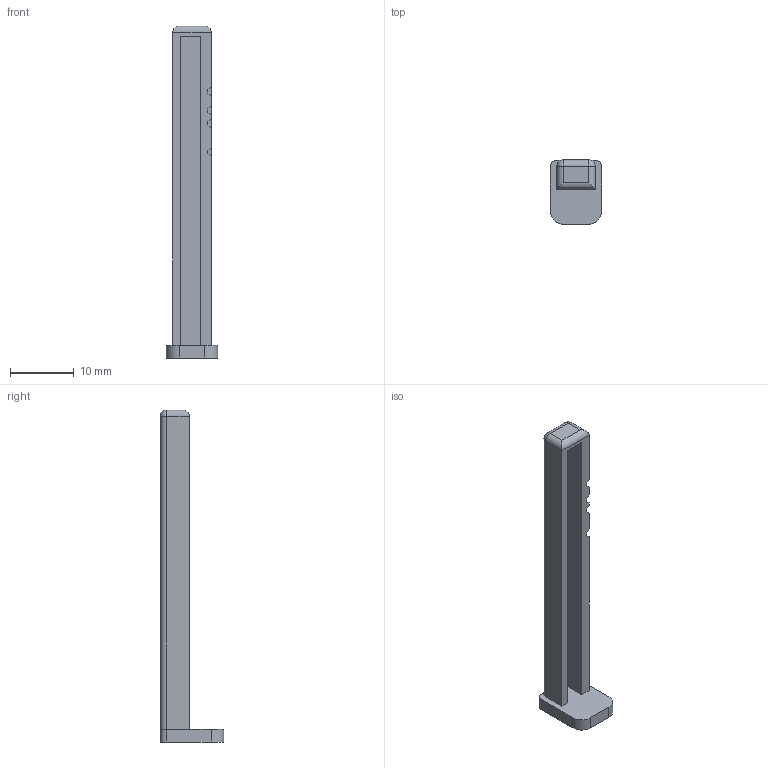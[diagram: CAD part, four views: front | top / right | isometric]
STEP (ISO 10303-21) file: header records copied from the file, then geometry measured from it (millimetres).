
FILE_DESCRIPTION(/* description */ (''),/* implementation_level */ '2;1');
FILE_NAME(/* name */ 'Z:\Flow\Inventor\Spritzenpumpe\Stopper.stp',/* time_stamp */ '2018-09-10T15:58:41+02:00',/* author */ ('JN'),/* organization */ (''),/* preprocessor_version */ 'ST-DEVELOPER v16.13',/* originating_system */ 'Autodesk Inventor 2018',/* authorisation */ '');
FILE_SCHEMA (('AUTOMOTIVE_DESIGN { 1 0 10303 214 3 1 1 }'));
Length unit declared in the file: millimetre
Products named in the file (1): Stopper
Bounding box: 8 x 10 x 52 mm (x, y, z)
Volume: 971.9 mm3; surface area: 1605.8 mm2
Topology: 1 solids, 1 shells, 65 faces, 148 edges, 88 vertices
Faces by surface type: plane 40, cylinder 23, sphere 2
Full cylindrical faces by diameter (mm): 1 x7
Entity records: 1853 total; most frequent: DIRECTION 323, CARTESIAN_POINT 319, ORIENTED_EDGE 306, EDGE_CURVE 147, AXIS2_PLACEMENT_3D 111, LINE 101, VECTOR 101, VERTEX_POINT 88
